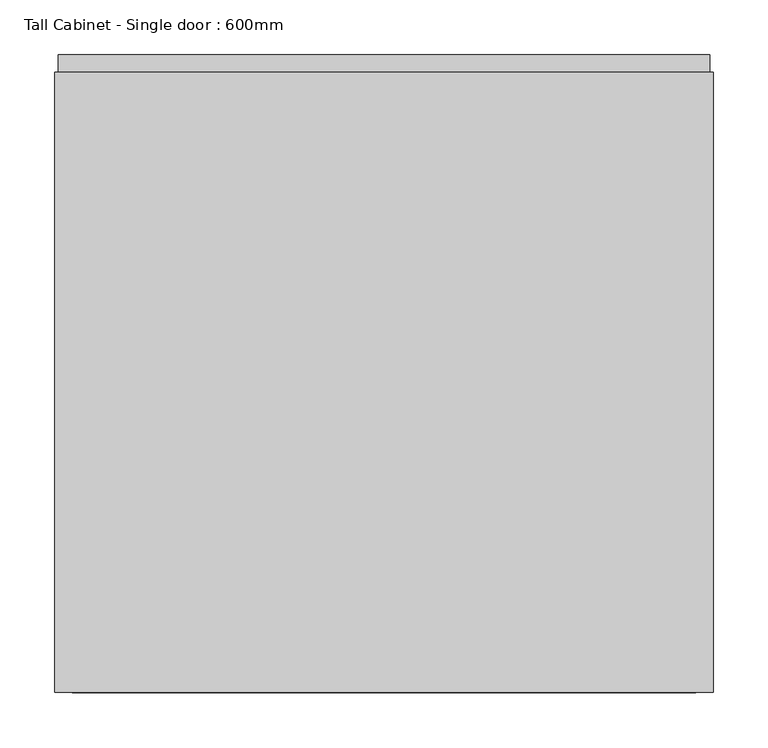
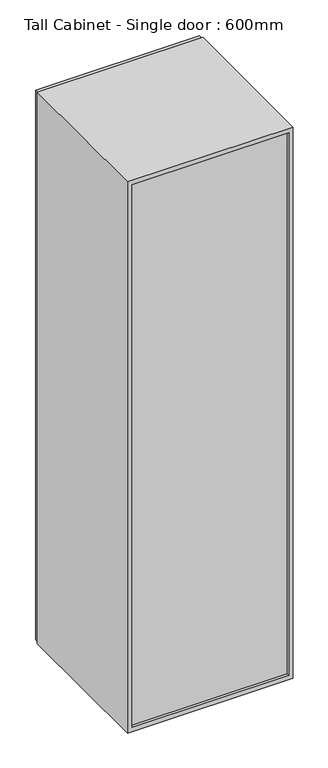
"""IFC4 building model written with IfcOpenShell, lengths in millimetres: furniture geometry, Tall Cabinet - Single door : 600mm."""

import ifcopenshell
import ifcopenshell.guid

model = None  # the IFC model being written
_history = None  # IfcOwnerHistory: only IFC2X3 demands one
_inside = {}  # id of a spatial element -> (the spatial element, [elements in it])
_under = {}  # id of a project, library or spatial element -> (it, [spatial elements below it])
_declared = {}  # id of a project -> (the project, [libraries it declares])
_typed = {}  # id of a type object -> (the type object, [elements of that type])
_made_of = {}  # id of a material, layer set ... -> (it, [elements and type objects made of it])


def new_model(schema):
    """Start an empty IFC model of exactly this schema.

    Asked for "IFC4X3", IfcOpenShell would pick the latest addendum, in which some entities
    have other attributes; the version numbers below select the first issue.
    IFC2X3 requires an IfcOwnerHistory on every rooted entity: one is made here for all.
    """
    global model, _history
    if schema == "IFC4X3":
        model = ifcopenshell.file(schema_version=(4, 3, 0, 0))
    else:
        model = ifcopenshell.file(schema=schema)
    _inside.clear()
    _under.clear()
    _declared.clear()
    _typed.clear()
    _made_of.clear()
    _history = None
    if model.schema == "IFC2X3":
        org = make("IfcOrganization", Name="unknown")
        user = make(
            "IfcPersonAndOrganization",
            ThePerson=make("IfcPerson", FamilyName="unknown"),
            TheOrganization=org,
        )
        app = make(
            "IfcApplication",
            ApplicationDeveloper=org,
            Version="unknown",
            ApplicationFullName="unknown",
            ApplicationIdentifier="unknown",
        )
        _history = make(
            "IfcOwnerHistory",
            OwningUser=user,
            OwningApplication=app,
            ChangeAction="ADDED",
            CreationDate=0,
        )
    return model


def make(cls, **values):
    """One entity of the class cls with the attributes given. An attribute that is None is left unset."""
    return model.create_entity(
        cls, **{name: value for name, value in values.items() if value is not None}
    )


def rooted(cls, **values):
    """An entity with a GlobalId (a new one), such as an element, a storey or a relation."""
    return make(cls, GlobalId=ifcopenshell.guid.new(), OwnerHistory=_history, **values)


def si_unit(unit_type, name, prefix=None):
    """IfcSIUnit, for example si_unit("LENGTHUNIT", "METRE", prefix="MILLI")."""
    return make("IfcSIUnit", UnitType=unit_type, Prefix=prefix, Name=name)


def assignment(units):
    """IfcUnitAssignment: the units of a project."""
    return None if units is None else make("IfcUnitAssignment", Units=units)


def point(xyz):
    """IfcCartesianPoint."""
    return None if xyz is None else make("IfcCartesianPoint", Coordinates=xyz)


def direction(xyz):
    """IfcDirection."""
    return None if xyz is None else make("IfcDirection", DirectionRatios=xyz)


def frame(location, z_axis=None, x_axis=None):
    """IfcAxis2Placement3D, a coordinate frame: its origin and axes. An axis left out is left unset."""
    return make(
        "IfcAxis2Placement3D",
        Location=point(location),
        Axis=direction(z_axis),
        RefDirection=direction(x_axis),
    )


def origin():
    """The frame at (0, 0, 0) with its axes left unset."""
    return frame((0.0, 0.0, 0.0))


def place(relative_to, where):
    """IfcLocalPlacement: puts the frame where relative to a parent placement (None: the world)."""
    return make(
        "IfcLocalPlacement", PlacementRelTo=relative_to, RelativePlacement=where
    )


def context(
    kind, dimensions, precision=None, world=None, true_north=None, identifier=None
):
    """IfcGeometricRepresentationContext, for example the 3D "Model" context."""
    return make(
        "IfcGeometricRepresentationContext",
        ContextIdentifier=identifier,
        ContextType=kind,
        CoordinateSpaceDimension=dimensions,
        Precision=precision,
        WorldCoordinateSystem=world,
        TrueNorth=true_north,
    )


def project(units=None, contexts=None):
    """IfcProject with its units and contexts."""
    return rooted(
        "IfcProject",
        Name="project",
        RepresentationContexts=contexts,
        UnitsInContext=assignment(units),
    )


def spatial(cls, under=None, at=None, **own):
    """A site, building, storey or space (cls), placed at a placement, below another one or the project."""
    s = rooted(cls, ObjectPlacement=at, **own)
    if under is not None:
        _under.setdefault(under.id(), (under, []))[1].append(s)
    return s


def polyline(points):
    """IfcPolyline through the points."""
    return make("IfcPolyline", Points=[point(p) for p in points])


def outline(outer, holes=None, kind="AREA"):
    """IfcArbitraryClosedProfileDef: a profile drawn as a closed curve; with holes, ...WithVoids."""
    if holes is None:
        return make("IfcArbitraryClosedProfileDef", ProfileType=kind, OuterCurve=outer)
    return make(
        "IfcArbitraryProfileDefWithVoids",
        ProfileType=kind,
        OuterCurve=outer,
        InnerCurves=holes,
    )


def extrude(swept, where, along, depth):
    """IfcExtrudedAreaSolid: the profile swept, set in the frame where, extruded along a direction by depth."""
    return make(
        "IfcExtrudedAreaSolid",
        SweptArea=swept,
        Position=where,
        ExtrudedDirection=direction(along),
        Depth=depth,
    )


def shape(context_of_items, identifier, shape_type, items):
    """IfcShapeRepresentation: the items that make up one representation, for example the "Body"."""
    return make(
        "IfcShapeRepresentation",
        ContextOfItems=context_of_items,
        RepresentationIdentifier=identifier,
        RepresentationType=shape_type,
        Items=items,
    )


def source(mapping_origin, context_of_items, identifier, shape_type, items):
    """IfcRepresentationMap: a shape defined once, which mapped items show again and again."""
    return make(
        "IfcRepresentationMap",
        MappingOrigin=mapping_origin,
        MappedRepresentation=shape(context_of_items, identifier, shape_type, items),
    )


def transform(
    local_origin,
    x_axis=None,
    y_axis=None,
    z_axis=None,
    scale=None,
    scale2=None,
    scale3=None,
    uniform=True,
):
    """IfcCartesianTransformationOperator3D, or its non-uniform kind. x_axis, y_axis, z_axis: its Axis1, 2, 3."""
    if uniform:
        return make(
            "IfcCartesianTransformationOperator3D",
            Axis1=direction(x_axis),
            Axis2=direction(y_axis),
            LocalOrigin=point(local_origin),
            Scale=scale,
            Axis3=direction(z_axis),
        )
    return make(
        "IfcCartesianTransformationOperator3DnonUniform",
        Axis1=direction(x_axis),
        Axis2=direction(y_axis),
        LocalOrigin=point(local_origin),
        Scale=scale,
        Axis3=direction(z_axis),
        Scale2=scale2,
        Scale3=scale3,
    )


def mapped(mapping_source, mapping_target):
    """IfcMappedItem: shows the shape of a source again, moved by a transform."""
    return make(
        "IfcMappedItem", MappingSource=mapping_source, MappingTarget=mapping_target
    )


def made_of(thing, what):
    """Note that an element or type object is made of a material, layer set ...; save() writes the relation."""
    if what is not None:
        _made_of.setdefault(what.id(), (what, []))[1].append(thing)
    return thing


def element(
    cls,
    number,
    at=None,
    inside=None,
    cuts=None,
    type_object=None,
    material=None,
    context=None,
    identifier="Body",
    shape_type=None,
    held_by="IfcProductDefinitionShape",
    body=None,
    shapes=None,
    **own,
):
    """One element of the class cls, such as IfcWall. Its Tag is "e" and its number.

    at: its placement. inside: the storey or other place that contains it. cuts: it is an
    opening in that element (IfcRelVoidsElement). A single representation is given by context,
    identifier, shape_type and body (its items); several are given by shapes. held_by: the class
    of the entity that holds the representations. save() writes the other relations.
    """
    e = rooted(cls, Tag="e%d" % number, ObjectPlacement=at, **own)
    if body is not None:
        shapes = [shape(context, identifier, shape_type, body)]
    if shapes is not None:
        e.Representation = make(held_by, Representations=shapes)
    if inside is not None:
        _inside.setdefault(inside.id(), (inside, []))[1].append(e)
    if cuts is not None:
        rooted(
            "IfcRelVoidsElement", RelatingBuildingElement=cuts, RelatedOpeningElement=e
        )
    if type_object is not None:
        _typed.setdefault(type_object.id(), (type_object, []))[1].append(e)
    return made_of(e, material)


def aggregate(whole, parts):
    """IfcRelAggregates: a whole, such as a stair, and the parts it consists of."""
    return rooted("IfcRelAggregates", RelatingObject=whole, RelatedObjects=parts)


def save(model, path):
    """Write the relations noted so far, then the file.

    IfcRelAggregates (storeys below a building ...), IfcRelContainedInSpatialStructure (elements
    in a storey), IfcRelDefinesByType, IfcRelAssociatesMaterial and IfcRelDeclares: one each for
    every whole, place, type object, material and project.
    """
    for whole, parts in _under.values():
        aggregate(whole, parts)
    for where, things in _inside.values():
        rooted(
            "IfcRelContainedInSpatialStructure",
            RelatedElements=things,
            RelatingStructure=where,
        )
    for kind, things in _typed.values():
        rooted("IfcRelDefinesByType", RelatedObjects=things, RelatingType=kind)
    for what, things in _made_of.values():
        rooted("IfcRelAssociatesMaterial", RelatedObjects=things, RelatingMaterial=what)
    for by, libraries in _declared.values():
        rooted("IfcRelDeclares", RelatingContext=by, RelatedDefinitions=libraries)
    model.write(path)


def tall_cabinet_single_door_600mm_65597d0d(model_context):
    return source(origin(), model_context, "Body", "SweptSolid", [
        extrude(outline(polyline([(341.7003264, 581.0), (341.7003264, 565.0), (-252.2996736, 565.0), (-252.2996736, 581.0), (341.7003264, 581.0)])), frame((0.0, 0.0, 167.0), z_axis=(0.0, 0.0, 1.0), x_axis=(1.0, 0.0, 0.0)), (0.0, 0.0, 1.0), 2102.0),
        extrude(outline(polyline([(328.7003264, 10.0), (-239.2996736, 10.0), (-239.2996736, 16.0), (328.7003264, 16.0), (328.7003264, 10.0)])), frame((0.0, 0.0, 180.0), z_axis=(0.0, 0.0, 1.0), x_axis=(1.0, 0.0, 0.0)), (0.0, 0.0, 1.0), 2076.0),
        extrude(outline(polyline([(2272.0, 344.7003264), (2272.0, -255.2996736), (164.0, -255.2996736), (164.0, 344.7003264), (2272.0, 344.7003264)]), holes=[polyline([(2256.0, 328.7003264), (180.0, 328.7003264), (180.0, -239.2996736), (2256.0, -239.2996736), (2256.0, 328.7003264)])]), frame((0.0, 0.0, 0.0), z_axis=(0.0, 1.0, 0.0), x_axis=(0.0, 0.0, 1.0)), (0.0, 0.0, 1.0), 565.0),
    ])


if __name__ == "__main__":
    model = new_model("IFC4")
    model_context = context("Model", 3, world=origin())
    ifc_project = project(units=[si_unit("LENGTHUNIT", "METRE", prefix="MILLI")], contexts=[model_context])
    site = spatial("IfcSite", under=ifc_project)
    building = spatial("IfcBuilding", under=site)
    placement = place(None, origin())
    tall_cabinet_single_door_600mm_shape = tall_cabinet_single_door_600mm_65597d0d(model_context)
    element("IfcFurniture", 1, ObjectType="Tall Cabinet - Single door : 600mm", at=placement, inside=building, context=model_context, shape_type="MappedRepresentation", body=[
        mapped(tall_cabinet_single_door_600mm_shape, transform((0.0, 0.0, 0.0), x_axis=(1.0, 0.0, 0.0), y_axis=(0.0, 1.0, 0.0), z_axis=(0.0, 0.0, 1.0))),
    ])
    save(model, "model.ifc")
